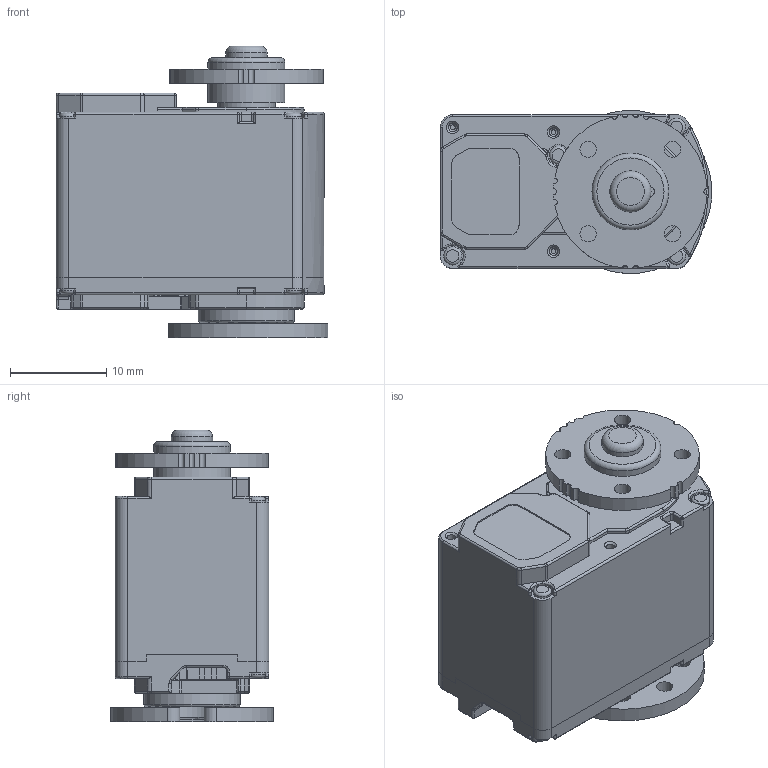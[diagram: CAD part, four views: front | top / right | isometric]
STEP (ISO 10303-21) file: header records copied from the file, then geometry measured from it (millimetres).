
FILE_DESCRIPTION (( 'STEP AP214' ), '1' );
FILE_NAME ('APE_RS204MD_ASSY.STEP', '2018-12-28T07:36:26', ( '' ), ( '' ), 'SwSTEP 2.0', 'SolidWorks 2017', '' );
FILE_SCHEMA (( 'AUTOMOTIVE_DESIGN' ));
Length unit declared in the file: millimetre
Products named in the file (7): BS0168_RS30x FREE HORN SET; BS0532_RS302_304 SCREW 2x8; BS3354_ROBOT SERVO HORN RH01; BS3471_TAPPING SCREW 1.2X3.5 J-TOP; RS204MD_BOTTOM_CASE; RS204MD; APE_RS204MD_ASSY
Assembly tree (13 placements, depth 2):
  APE_RS204MD_ASSY
    RS204MD
    RS204MD_BOTTOM_CASE
    BS3471_TAPPING SCREW 1.2X3.5 J-TOP  x8
    BS3354_ROBOT SERVO HORN RH01
    BS0532_RS302_304 SCREW 2x8
    BS0168_RS30x FREE HORN SET
Bounding box: 28.27 x 16.97 x 30.4 mm (x, y, z)
Volume: 9038.7 mm3; surface area: 5447.4 mm2
Topology: 13 solids, 13 shells, 681 faces, 1715 edges, 1067 vertices
Faces by surface type: cylinder 311, plane 248, bspline 48, torus 41, cone 22, sphere 11
Full cylindrical faces by diameter (mm): 0.9 x8, 1.2 x16, 1.7 x12, 1.9 x9, 2 x1, 2.2 x3, 4.3 x1, 6 x2, 6.2 x1, 8 x3, 10 x1
Entity records: 21207 total; most frequent: CARTESIAN_POINT 5686, DIRECTION 3125, ORIENTED_EDGE 3056, EDGE_CURVE 1528, AXIS2_PLACEMENT_3D 1148, VERTEX_POINT 997, LINE 829, VECTOR 829
